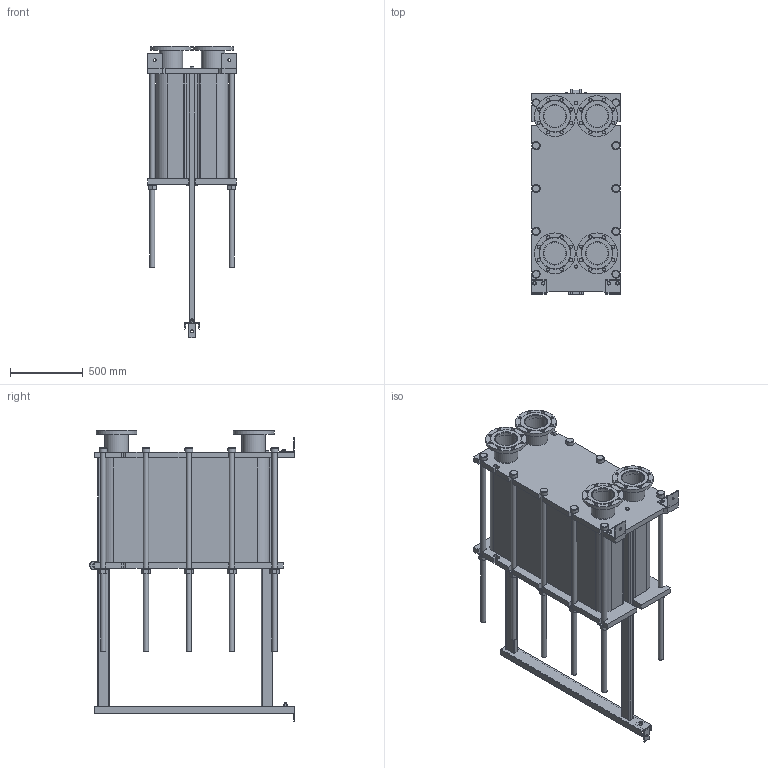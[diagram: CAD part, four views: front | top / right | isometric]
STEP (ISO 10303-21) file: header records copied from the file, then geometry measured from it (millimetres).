
FILE_DESCRIPTION(/* description */ (''),/* implementation_level */ '2;1');
FILE_NAME(/* name */ 'C:\Users\zhuro\Desktop\ENCO\TO\ЭН-041\ЭН-0,5-041-208-1.stp',/* time_stamp */ '2022-06-06T11:06:44+03:00',/* author */ ('zhuro'),/* organization */ (''),/* preprocessor_version */ 'ST-DEVELOPER v18.1',/* originating_system */ 'Autodesk Inventor 2022',/* authorisation */ '');
FILE_SCHEMA (('AUTOMOTIVE_DESIGN { 1 0 10303 214 3 1 1 }'));
Length unit declared in the file: millimetre
Products named in the file (1): ЭН-0,5-041-208-1
Bounding box: 610 x 1406.5 x 2000 mm (x, y, z)
Volume: 491667579.5 mm3; surface area: 11405822.6 mm2
Topology: 52 solids, 52 shells, 711 faces, 1696 edges, 1094 vertices
Faces by surface type: plane 487, cylinder 177, cone 41, torus 6
Full cylindrical faces by diameter (mm): 8 x4, 10 x2, 16 x8, 18 x3, 22 x32, 36 x24, 50 x1, 54 x10, 60 x12, 151 x4, 161 x8, 280 x4
Entity records: 22667 total; most frequent: CARTESIAN_POINT 5230, DIRECTION 3644, ORIENTED_EDGE 3392, EDGE_CURVE 1696, AXIS2_PLACEMENT_3D 1272, LINE 1100, VECTOR 1100, VERTEX_POINT 1094
